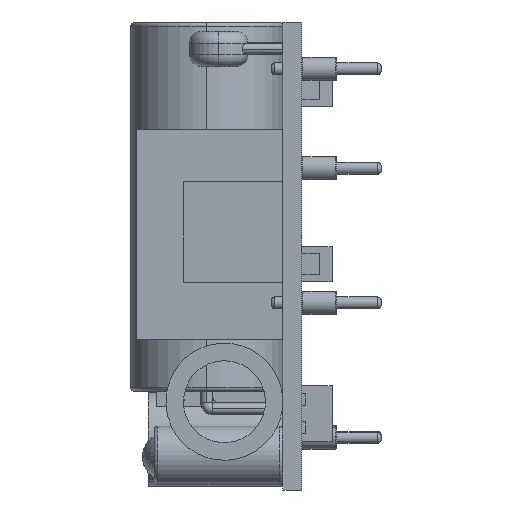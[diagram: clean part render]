
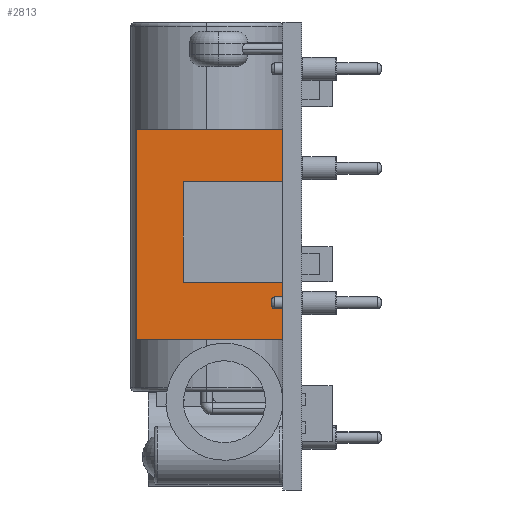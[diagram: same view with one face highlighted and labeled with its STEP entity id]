
A CAD part, left-side view. The second image highlights one B-rep face of the part: STEP entity #2813.
In plain terms, the highlighted planar face has unit normal (-1, 0, 0) as drawn and (0, 1, 0) by its records, which use the part's own axes.
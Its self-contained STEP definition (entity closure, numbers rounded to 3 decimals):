
#2758 = EDGE_CURVE ( 'NONE', #2793, #2782, #9710, .T. ) ;
#2768 = EDGE_CURVE ( 'NONE', #2828, #2782, #9750, .T. ) ;
#2770 = EDGE_CURVE ( 'NONE', #2833, #2793, #9751, .T. ) ;
#2771 = EDGE_LOOP ( 'NONE', ( #2772, #2814, #2817, #2820 ) ) ;
#2772 = ORIENTED_EDGE ( 'NONE', *, *, #2768, .T. ) ;
#2782 = VERTEX_POINT ( 'NONE', #9796 ) ;
#2793 = VERTEX_POINT ( 'NONE', #9795 ) ;
#2813 = ADVANCED_FACE ( 'NONE', ( #9818 ), #9809, .F. ) ;
#2814 = ORIENTED_EDGE ( 'NONE', *, *, #2758, .F. ) ;
#2817 = ORIENTED_EDGE ( 'NONE', *, *, #2770, .F. ) ;
#2820 = ORIENTED_EDGE ( 'NONE', *, *, #2830, .T. ) ;
#2828 = VERTEX_POINT ( 'NONE', #9840 ) ;
#2830 = EDGE_CURVE ( 'NONE', #2833, #2828, #9851, .T. ) ;
#2833 = VERTEX_POINT ( 'NONE', #9838 ) ;
#9710 = LINE ( 'NONE', #9761, #9760 ) ;
#9738 = DIRECTION ( 'NONE',  ( 0., 0., 1. ) ) ;
#9739 = VECTOR ( 'NONE', #9738, 1000. ) ;
#9741 = VECTOR ( 'NONE', #9742, 1000. ) ;
#9742 = DIRECTION ( 'NONE',  ( 0., 0., 1. ) ) ;
#9743 = CARTESIAN_POINT ( 'NONE',  ( 0., 0., 0. ) ) ;
#9750 = LINE ( 'NONE', #9743, #9741 ) ;
#9751 = LINE ( 'NONE', #9753, #9739 ) ;
#9753 = CARTESIAN_POINT ( 'NONE',  ( 12.5, 0., 0. ) ) ;
#9759 = DIRECTION ( 'NONE',  ( -1., 0., 0. ) ) ;
#9760 = VECTOR ( 'NONE', #9759, 1000. ) ;
#9761 = CARTESIAN_POINT ( 'NONE',  ( 12.5, 0., 0. ) ) ;
#9795 = CARTESIAN_POINT ( 'NONE',  ( 12.5, 0., 0. ) ) ;
#9796 = CARTESIAN_POINT ( 'NONE',  ( 0., 0., 0. ) ) ;
#9800 = DIRECTION ( 'NONE',  ( 0., 0., -1. ) ) ;
#9801 = DIRECTION ( 'NONE',  ( 0., -1., 0. ) ) ;
#9802 = CARTESIAN_POINT ( 'NONE',  ( 12.5, 0., 0. ) ) ;
#9809 = PLANE ( 'NONE',  #9815 ) ;
#9815 = AXIS2_PLACEMENT_3D ( 'NONE', #9802, #9801, #9800 ) ;
#9818 = FACE_OUTER_BOUND ( 'NONE', #2771, .T. ) ;
#9829 = DIRECTION ( 'NONE',  ( -1., 0., 0. ) ) ;
#9830 = VECTOR ( 'NONE', #9829, 1000. ) ;
#9838 = CARTESIAN_POINT ( 'NONE',  ( 12.5, 0., -18. ) ) ;
#9840 = CARTESIAN_POINT ( 'NONE',  ( 0., 0., -18. ) ) ;
#9850 = CARTESIAN_POINT ( 'NONE',  ( 12.5, 0., -18. ) ) ;
#9851 = LINE ( 'NONE', #9850, #9830 ) ;
